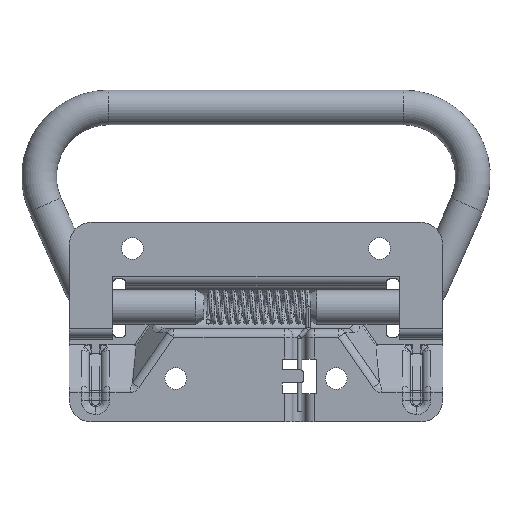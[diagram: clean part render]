
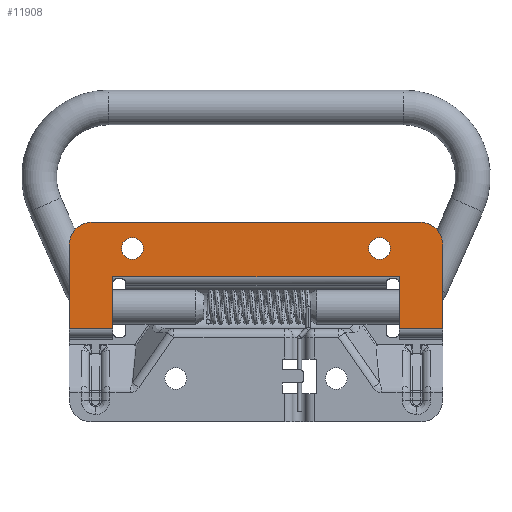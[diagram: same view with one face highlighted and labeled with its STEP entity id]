
A CAD part, front view. The second image highlights one B-rep face of the part: STEP entity #11908.
In plain terms, the highlighted planar face has unit normal (0, -1, 0).
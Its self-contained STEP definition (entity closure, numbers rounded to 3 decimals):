
#394 = VECTOR ( 'NONE', #3331, 1000. ) ;
#445 = CARTESIAN_POINT ( 'NONE',  ( 38., 0., 23. ) ) ;
#545 = PLANE ( 'NONE',  #4588 ) ;
#705 = CARTESIAN_POINT ( 'NONE',  ( -33., 0., -1.5 ) ) ;
#899 = ORIENTED_EDGE ( 'NONE', *, *, #5082, .T. ) ;
#925 = EDGE_CURVE ( 'NONE', #15202, #22006, #9894, .T. ) ;
#955 = EDGE_LOOP ( 'NONE', ( #6629, #15273, #26249, #15239, #3208, #19200, #18876, #23253, #18963, #7793 ) ) ;
#1222 = FACE_BOUND ( 'NONE', #18937, .T. ) ;
#1227 = EDGE_CURVE ( 'NONE', #5953, #2563, #22637, .T. ) ;
#1282 = AXIS2_PLACEMENT_3D ( 'NONE', #9717, #24303, #11836 ) ;
#1293 = CARTESIAN_POINT ( 'NONE',  ( 28.5, 0., 19.5 ) ) ;
#1312 = EDGE_CURVE ( 'NONE', #5953, #11945, #7319, .T. ) ;
#2099 = ORIENTED_EDGE ( 'NONE', *, *, #24957, .T. ) ;
#2176 = AXIS2_PLACEMENT_3D ( 'NONE', #16769, #4205, #18865 ) ;
#2526 = DIRECTION ( 'NONE',  ( 0., 0., -1. ) ) ;
#2563 = VERTEX_POINT ( 'NONE', #705 ) ;
#2799 = EDGE_CURVE ( 'NONE', #11945, #6068, #11864, .T. ) ;
#3208 = ORIENTED_EDGE ( 'NONE', *, *, #23393, .F. ) ;
#3331 = DIRECTION ( 'NONE',  ( 1., 0., 0. ) ) ;
#3351 = CARTESIAN_POINT ( 'NONE',  ( 28.5, 0., 14.5 ) ) ;
#3805 = CARTESIAN_POINT ( 'NONE',  ( -33., 0., -3.5 ) ) ;
#4205 = DIRECTION ( 'NONE',  ( 0., 1., 0. ) ) ;
#4385 = EDGE_CURVE ( 'NONE', #6068, #10861, #11490, .T. ) ;
#4588 = AXIS2_PLACEMENT_3D ( 'NONE', #4737, #19376, #6858 ) ;
#4737 = CARTESIAN_POINT ( 'NONE',  ( 38., 0., 18. ) ) ;
#5082 = EDGE_CURVE ( 'NONE', #11798, #15416, #14769, .T. ) ;
#5845 = CARTESIAN_POINT ( 'NONE',  ( 30., 0., 10.5 ) ) ;
#5953 = VERTEX_POINT ( 'NONE', #17735 ) ;
#6068 = VERTEX_POINT ( 'NONE', #7731 ) ;
#6254 = VECTOR ( 'NONE', #22369, 1000. ) ;
#6586 = DIRECTION ( 'NONE',  ( 0., 0., 1. ) ) ;
#6629 = ORIENTED_EDGE ( 'NONE', *, *, #8998, .T. ) ;
#6661 = VECTOR ( 'NONE', #23179, 1000. ) ;
#6696 = VECTOR ( 'NONE', #6586, 1000. ) ;
#6832 = DIRECTION ( 'NONE',  ( 0., 1., 0. ) ) ;
#6858 = DIRECTION ( 'NONE',  ( 0., 0., 1. ) ) ;
#6993 = DIRECTION ( 'NONE',  ( 0., 1., 0. ) ) ;
#7319 = LINE ( 'NONE', #23266, #6696 ) ;
#7731 = CARTESIAN_POINT ( 'NONE',  ( -38., 0., 23. ) ) ;
#7793 = ORIENTED_EDGE ( 'NONE', *, *, #10147, .F. ) ;
#7834 = DIRECTION ( 'NONE',  ( 0., 0., -1. ) ) ;
#8079 = EDGE_CURVE ( 'NONE', #13352, #15721, #22848, .T. ) ;
#8998 = EDGE_CURVE ( 'NONE', #13334, #22006, #26471, .T. ) ;
#9410 = AXIS2_PLACEMENT_3D ( 'NONE', #19348, #6832, #21437 ) ;
#9717 = CARTESIAN_POINT ( 'NONE',  ( -38., 0., 18. ) ) ;
#9830 = CIRCLE ( 'NONE', #25823, 2.5 ) ;
#9894 = LINE ( 'NONE', #22979, #21031 ) ;
#10147 = EDGE_CURVE ( 'NONE', #13334, #2563, #25156, .T. ) ;
#10622 = DIRECTION ( 'NONE',  ( 0., 0., 1. ) ) ;
#10798 = CARTESIAN_POINT ( 'NONE',  ( -28.5, 0., 14.5 ) ) ;
#10861 = VERTEX_POINT ( 'NONE', #445 ) ;
#10948 = DIRECTION ( 'NONE',  ( 0., 1., 0. ) ) ;
#11490 = LINE ( 'NONE', #26264, #394 ) ;
#11733 = CARTESIAN_POINT ( 'NONE',  ( -33., 0., 10.5 ) ) ;
#11798 = VERTEX_POINT ( 'NONE', #10798 ) ;
#11836 = DIRECTION ( 'NONE',  ( 0., 0., -1. ) ) ;
#11864 = CIRCLE ( 'NONE', #1282, 5. ) ;
#11908 = ADVANCED_FACE ( 'NONE', ( #22827, #1222, #17312 ), #545, .F. ) ;
#11945 = VERTEX_POINT ( 'NONE', #25647 ) ;
#12013 = CARTESIAN_POINT ( 'NONE',  ( 38., 0., 18. ) ) ;
#13231 = CARTESIAN_POINT ( 'NONE',  ( 43., 0., -1.5 ) ) ;
#13334 = VERTEX_POINT ( 'NONE', #11733 ) ;
#13352 = VERTEX_POINT ( 'NONE', #1293 ) ;
#14104 = DIRECTION ( 'NONE',  ( 0., 0., 1. ) ) ;
#14769 = CIRCLE ( 'NONE', #2176, 2.5 ) ;
#14774 = LINE ( 'NONE', #15076, #25848 ) ;
#15076 = CARTESIAN_POINT ( 'NONE',  ( 43., 0., -18. ) ) ;
#15202 = VERTEX_POINT ( 'NONE', #19192 ) ;
#15239 = ORIENTED_EDGE ( 'NONE', *, *, #24941, .F. ) ;
#15273 = ORIENTED_EDGE ( 'NONE', *, *, #925, .F. ) ;
#15416 = VERTEX_POINT ( 'NONE', #17796 ) ;
#15721 = VERTEX_POINT ( 'NONE', #3351 ) ;
#15975 = CARTESIAN_POINT ( 'NONE',  ( 43., 0., 18. ) ) ;
#16320 = DIRECTION ( 'NONE',  ( 1., 0., 0. ) ) ;
#16422 = EDGE_CURVE ( 'NONE', #15721, #13352, #17853, .T. ) ;
#16769 = CARTESIAN_POINT ( 'NONE',  ( -28.5, 0., 17. ) ) ;
#17312 = FACE_BOUND ( 'NONE', #20048, .T. ) ;
#17506 = CARTESIAN_POINT ( 'NONE',  ( 33., 0., 10.5 ) ) ;
#17735 = CARTESIAN_POINT ( 'NONE',  ( -43., 0., -1.5 ) ) ;
#17796 = CARTESIAN_POINT ( 'NONE',  ( -28.5, 0., 19.5 ) ) ;
#17853 = CIRCLE ( 'NONE', #9410, 2.5 ) ;
#18303 = ORIENTED_EDGE ( 'NONE', *, *, #16422, .T. ) ;
#18865 = DIRECTION ( 'NONE',  ( 0., 0., 1. ) ) ;
#18876 = ORIENTED_EDGE ( 'NONE', *, *, #2799, .F. ) ;
#18937 = EDGE_LOOP ( 'NONE', ( #899, #2099 ) ) ;
#18963 = ORIENTED_EDGE ( 'NONE', *, *, #1227, .T. ) ;
#19019 = CARTESIAN_POINT ( 'NONE',  ( -33., 0., -1.5 ) ) ;
#19192 = CARTESIAN_POINT ( 'NONE',  ( 33., 0., -1.5 ) ) ;
#19200 = ORIENTED_EDGE ( 'NONE', *, *, #4385, .F. ) ;
#19348 = CARTESIAN_POINT ( 'NONE',  ( 28.5, 0., 17. ) ) ;
#19376 = DIRECTION ( 'NONE',  ( 0., 1., 0. ) ) ;
#19500 = CARTESIAN_POINT ( 'NONE',  ( 28.5, 0., 17. ) ) ;
#20048 = EDGE_LOOP ( 'NONE', ( #18303, #26187 ) ) ;
#20235 = VECTOR ( 'NONE', #7834, 1000. ) ;
#20674 = CIRCLE ( 'NONE', #25110, 5. ) ;
#21031 = VECTOR ( 'NONE', #10622, 1000. ) ;
#21437 = DIRECTION ( 'NONE',  ( 0., 0., 1. ) ) ;
#21444 = CARTESIAN_POINT ( 'NONE',  ( 43., 0., -1.5 ) ) ;
#21603 = DIRECTION ( 'NONE',  ( 0., 0., 1. ) ) ;
#22006 = VERTEX_POINT ( 'NONE', #17506 ) ;
#22369 = DIRECTION ( 'NONE',  ( 1., 0., 0. ) ) ;
#22637 = LINE ( 'NONE', #19019, #6661 ) ;
#22827 = FACE_OUTER_BOUND ( 'NONE', #955, .T. ) ;
#22848 = CIRCLE ( 'NONE', #27079, 2.5 ) ;
#22979 = CARTESIAN_POINT ( 'NONE',  ( 33., 0., -3.5 ) ) ;
#23179 = DIRECTION ( 'NONE',  ( 1., 0., 0. ) ) ;
#23253 = ORIENTED_EDGE ( 'NONE', *, *, #1312, .F. ) ;
#23266 = CARTESIAN_POINT ( 'NONE',  ( -43., 0., -18. ) ) ;
#23393 = EDGE_CURVE ( 'NONE', #10861, #25284, #20674, .T. ) ;
#23441 = CARTESIAN_POINT ( 'NONE',  ( -28.5, 0., 17. ) ) ;
#23872 = VECTOR ( 'NONE', #16320, 1000. ) ;
#24303 = DIRECTION ( 'NONE',  ( 0., 1., 0. ) ) ;
#24513 = LINE ( 'NONE', #13231, #23872 ) ;
#24941 = EDGE_CURVE ( 'NONE', #25284, #25651, #14774, .T. ) ;
#24957 = EDGE_CURVE ( 'NONE', #15416, #11798, #9830, .T. ) ;
#25101 = EDGE_CURVE ( 'NONE', #15202, #25651, #24513, .T. ) ;
#25110 = AXIS2_PLACEMENT_3D ( 'NONE', #12013, #26603, #14104 ) ;
#25156 = LINE ( 'NONE', #3805, #20235 ) ;
#25284 = VERTEX_POINT ( 'NONE', #15975 ) ;
#25545 = DIRECTION ( 'NONE',  ( 0., 0., 1. ) ) ;
#25647 = CARTESIAN_POINT ( 'NONE',  ( -43., 0., 18. ) ) ;
#25651 = VERTEX_POINT ( 'NONE', #21444 ) ;
#25823 = AXIS2_PLACEMENT_3D ( 'NONE', #23441, #10948, #25545 ) ;
#25848 = VECTOR ( 'NONE', #2526, 1000. ) ;
#26187 = ORIENTED_EDGE ( 'NONE', *, *, #8079, .T. ) ;
#26249 = ORIENTED_EDGE ( 'NONE', *, *, #25101, .T. ) ;
#26264 = CARTESIAN_POINT ( 'NONE',  ( -38., 0., 23. ) ) ;
#26471 = LINE ( 'NONE', #5845, #6254 ) ;
#26603 = DIRECTION ( 'NONE',  ( 0., 1., 0. ) ) ;
#27079 = AXIS2_PLACEMENT_3D ( 'NONE', #19500, #6993, #21603 ) ;
